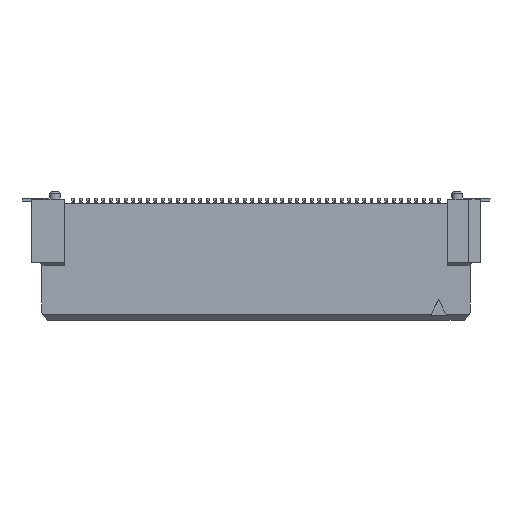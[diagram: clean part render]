
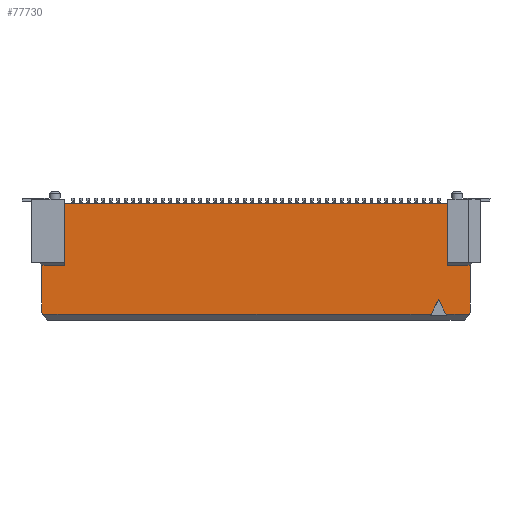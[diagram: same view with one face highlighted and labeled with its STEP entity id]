
A CAD part, front view. The second image highlights one B-rep face of the part: STEP entity #77730.
In plain terms, the highlighted planar face has unit normal (0, -1, 0).
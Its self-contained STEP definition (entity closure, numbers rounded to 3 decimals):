
#4230=CARTESIAN_POINT('',(23.522,1.44,
10.32));
#4240=VERTEX_POINT('',#4230);
#5030=CARTESIAN_POINT('',(23.522,1.44,
6.19));
#5040=VERTEX_POINT('',#5030);
#5070=CARTESIAN_POINT('',(23.522,1.44,
8.755));
#5080=DIRECTION('',(0.,0.,
1.));
#5090=VECTOR('',#5080,1.);
#5100=LINE('',#5070,#5090);
#5110=EDGE_CURVE('',#5040,#4240,#5100,.T.);
#8510=CARTESIAN_POINT('',(25.022,1.44,
6.19));
#8520=VERTEX_POINT('',#8510);
#8550=CARTESIAN_POINT('',(24.372,1.44,
6.19));
#8560=DIRECTION('',(-1.,0.,0.));
#8570=VECTOR('',#8560,1.);
#8580=LINE('',#8550,#8570);
#8590=EDGE_CURVE('',#8520,#5040,#8580,.T.);
#16680=CARTESIAN_POINT('',(25.022,1.44,
3.06));
#16690=VERTEX_POINT('',#16680);
#16720=CARTESIAN_POINT('',(25.022,1.44,
10.39));
#16730=DIRECTION('',(0.,0.,
1.));
#16740=VECTOR('',#16730,1.);
#16750=LINE('',#16720,#16740);
#16760=EDGE_CURVE('',#16690,#8520,#16750,.T.);
#22810=CARTESIAN_POINT('',(24.974,1.44,
2.91));
#22820=VERTEX_POINT('',#22810);
#22850=CARTESIAN_POINT('',(27.371,1.44,
10.39));
#22860=DIRECTION('',(-0.305,0.,
-0.952));
#22870=VECTOR('',#22860,1.);
#22880=LINE('',#22850,#22870);
#22890=EDGE_CURVE('',#16690,#22820,#22880,.T.);
#25270=CARTESIAN_POINT('',(22.912,1.44,
3.91));
#25280=VERTEX_POINT('',#25270);
#25310=CARTESIAN_POINT('',(20.49,1.44,
8.755));
#25320=DIRECTION('',(-0.447,0.,
0.894));
#25330=VECTOR('',#25320,1.);
#25340=LINE('',#25310,#25330);
#25350=CARTESIAN_POINT('',(23.412,1.44,
2.91));
#25360=VERTEX_POINT('',#25350);
#25370=EDGE_CURVE('',#25360,#25280,#25340,.T.);
#76150=CARTESIAN_POINT('',(22.412,1.44,
2.91));
#76160=VERTEX_POINT('',#76150);
#76190=CARTESIAN_POINT('',(25.335,1.44,
8.755));
#76200=DIRECTION('',(-0.447,0.,
-0.894));
#76210=VECTOR('',#76200,1.);
#76220=LINE('',#76190,#76210);
#76230=EDGE_CURVE('',#25280,#76160,#76220,.T.);
#76280=CARTESIAN_POINT('',(2.172,1.44,
2.91));
#76290=DIRECTION('',(0.,1.,
0.));
#76300=DIRECTION('',(0.,0.,
1.));
#76310=AXIS2_PLACEMENT_3D('',#76280,#76290,#76300);
#76320=PLANE('',#76310);
#76330=CARTESIAN_POINT('',(1.152,1.44,
2.91));
#76340=DIRECTION('',(1.,0.,0.));
#76350=VECTOR('',#76340,1.);
#76360=LINE('',#76330,#76350);
#76370=CARTESIAN_POINT('',(-2.348,1.44,
2.91));
#76380=VERTEX_POINT('',#76370);
#76390=CARTESIAN_POINT('',(8.162,1.44,
2.91));
#76400=VERTEX_POINT('',#76390);
#76410=EDGE_CURVE('',#76380,#76400,#76360,.T.);
#76420=ORIENTED_EDGE('',*,*,#76410,.T.);
#76430=CARTESIAN_POINT('',(4.458,1.44,
2.91));
#76440=DIRECTION('',(1.,0.,0.));
#76450=VECTOR('',#76440,1.);
#76460=LINE('',#76430,#76450);
#76470=CARTESIAN_POINT('',(-3.649,1.44,
2.91));
#76480=VERTEX_POINT('',#76470);
#76490=EDGE_CURVE('',#76480,#76380,#76460,.T.);
#76500=ORIENTED_EDGE('',*,*,#76490,.T.);
#76510=CARTESIAN_POINT('',(-6.046,1.44,
10.39));
#76520=DIRECTION('',(0.305,0.,
-0.952));
#76530=VECTOR('',#76520,1.);
#76540=LINE('',#76510,#76530);
#76550=CARTESIAN_POINT('',(-3.698,1.44,
3.06));
#76560=VERTEX_POINT('',#76550);
#76570=EDGE_CURVE('',#76560,#76480,#76540,.T.);
#76580=ORIENTED_EDGE('',*,*,#76570,.T.);
#76590=CARTESIAN_POINT('',(-3.698,1.44,
10.39));
#76600=DIRECTION('',(0.,0.,
1.));
#76610=VECTOR('',#76600,1.);
#76620=LINE('',#76590,#76610);
#76630=CARTESIAN_POINT('',(-3.698,1.44,
6.19));
#76640=VERTEX_POINT('',#76630);
#76650=EDGE_CURVE('',#76560,#76640,#76620,.T.);
#76660=ORIENTED_EDGE('',*,*,#76650,.F.);
#76670=CARTESIAN_POINT('',(-3.048,1.44,
6.19));
#76680=DIRECTION('',(1.,0.,0.));
#76690=VECTOR('',#76680,1.);
#76700=LINE('',#76670,#76690);
#76710=CARTESIAN_POINT('',(-2.198,1.44,
6.19));
#76720=VERTEX_POINT('',#76710);
#76730=EDGE_CURVE('',#76640,#76720,#76700,.T.);
#76740=ORIENTED_EDGE('',*,*,#76730,.F.);
#76750=CARTESIAN_POINT('',(-2.198,1.44,
8.755));
#76760=DIRECTION('',(0.,0.,
1.));
#76770=VECTOR('',#76760,1.);
#76780=LINE('',#76750,#76770);
#76790=CARTESIAN_POINT('',(-2.198,1.44,
10.32));
#76800=VERTEX_POINT('',#76790);
#76810=EDGE_CURVE('',#76720,#76800,#76780,.T.);
#76820=ORIENTED_EDGE('',*,*,#76810,.F.);
#76830=CARTESIAN_POINT('',(-2.348,1.44,
10.32));
#76840=DIRECTION('',(1.,0.,0.));
#76850=VECTOR('',#76840,1.);
#76860=LINE('',#76830,#76850);
#76870=CARTESIAN_POINT('',(-1.838,1.44,
10.32));
#76880=VERTEX_POINT('',#76870);
#76890=EDGE_CURVE('',#76800,#76880,#76860,.T.);
#76900=ORIENTED_EDGE('',*,*,#76890,.F.);
#76910=CARTESIAN_POINT('',(-20.088,1.44,
10.32));
#76920=DIRECTION('',(1.,0.,0.));
#76930=VECTOR('',#76920,1.);
#76940=LINE('',#76910,#76930);
#76950=CARTESIAN_POINT('',(1.662,1.44,
10.32));
#76960=VERTEX_POINT('',#76950);
#76970=EDGE_CURVE('',#76880,#76960,#76940,.T.);
#76980=ORIENTED_EDGE('',*,*,#76970,.F.);
#76990=CARTESIAN_POINT('',(-14.,1.44,
10.32));
#77000=DIRECTION('',(1.,0.,0.));
#77010=VECTOR('',#77000,1.);
#77020=LINE('',#76990,#77010);
#77030=CARTESIAN_POINT('',(8.162,1.44,
10.32));
#77040=VERTEX_POINT('',#77030);
#77050=EDGE_CURVE('',#76960,#77040,#77020,.T.);
#77060=ORIENTED_EDGE('',*,*,#77050,.F.);
#77070=CARTESIAN_POINT('',(-39.,1.44,
10.32));
#77080=DIRECTION('',(1.,0.,0.));
#77090=VECTOR('',#77080,1.);
#77100=LINE('',#77070,#77090);
#77110=CARTESIAN_POINT('',(13.162,1.44,
10.32));
#77120=VERTEX_POINT('',#77110);
#77130=EDGE_CURVE('',#77040,#77120,#77100,.T.);
#77140=ORIENTED_EDGE('',*,*,#77130,.F.);
#77150=CARTESIAN_POINT('',(-9.,1.44,
10.32));
#77160=DIRECTION('',(1.,0.,0.));
#77170=VECTOR('',#77160,1.);
#77180=LINE('',#77150,#77170);
#77190=CARTESIAN_POINT('',(19.162,1.44,
10.32));
#77200=VERTEX_POINT('',#77190);
#77210=EDGE_CURVE('',#77120,#77200,#77180,.T.);
#77220=ORIENTED_EDGE('',*,*,#77210,.F.);
#77230=CARTESIAN_POINT('',(-2.588,1.44,
10.32));
#77240=DIRECTION('',(1.,0.,0.));
#77250=VECTOR('',#77240,1.);
#77260=LINE('',#77230,#77250);
#77270=CARTESIAN_POINT('',(23.162,1.44,
10.32));
#77280=VERTEX_POINT('',#77270);
#77290=EDGE_CURVE('',#77200,#77280,#77260,.T.);
#77300=ORIENTED_EDGE('',*,*,#77290,.F.);
#77310=CARTESIAN_POINT('',(23.672,1.44,
10.32));
#77320=DIRECTION('',(-1.,0.,0.));
#77330=VECTOR('',#77320,1.);
#77340=LINE('',#77310,#77330);
#77350=EDGE_CURVE('',#4240,#77280,#77340,.T.);
#77360=ORIENTED_EDGE('',*,*,#77350,.T.);
#77370=ORIENTED_EDGE('',*,*,#5110,.T.);
#77380=ORIENTED_EDGE('',*,*,#8590,.T.);
#77390=ORIENTED_EDGE('',*,*,#16760,.T.);
#77400=ORIENTED_EDGE('',*,*,#22890,.F.);
#77410=CARTESIAN_POINT('',(16.867,1.44,
2.91));
#77420=DIRECTION('',(-1.,0.,0.));
#77430=VECTOR('',#77420,1.);
#77440=LINE('',#77410,#77430);
#77450=CARTESIAN_POINT('',(23.672,1.44,
2.91));
#77460=VERTEX_POINT('',#77450);
#77470=EDGE_CURVE('',#22820,#77460,#77440,.T.);
#77480=ORIENTED_EDGE('',*,*,#77470,.F.);
#77490=CARTESIAN_POINT('',(-2.348,1.44,
2.91));
#77500=DIRECTION('',(1.,0.,0.));
#77510=VECTOR('',#77500,1.);
#77520=LINE('',#77490,#77510);
#77530=EDGE_CURVE('',#25360,#77460,#77520,.T.);
#77540=ORIENTED_EDGE('',*,*,#77530,.T.);
#77550=ORIENTED_EDGE('',*,*,#25370,.F.);
#77560=ORIENTED_EDGE('',*,*,#76230,.F.);
#77570=CARTESIAN_POINT('',(6.152,1.44,
2.91));
#77580=DIRECTION('',(1.,0.,0.));
#77590=VECTOR('',#77580,1.);
#77600=LINE('',#77570,#77590);
#77610=CARTESIAN_POINT('',(13.162,1.44,
2.91));
#77620=VERTEX_POINT('',#77610);
#77630=EDGE_CURVE('',#77620,#76160,#77600,.T.);
#77640=ORIENTED_EDGE('',*,*,#77630,.T.);
#77650=CARTESIAN_POINT('',(-23.848,1.44,
2.91));
#77660=DIRECTION('',(1.,0.,0.));
#77670=VECTOR('',#77660,1.);
#77680=LINE('',#77650,#77670);
#77690=EDGE_CURVE('',#76400,#77620,#77680,.T.);
#77700=ORIENTED_EDGE('',*,*,#77690,.T.);
#77710=EDGE_LOOP('',(#77700,#77640,#77560,#77550,#77540,#77480,#77400,
#77390,#77380,#77370,#77360,#77300,#77220,#77140,#77060,#76980,#76900,
#76820,#76740,#76660,#76580,#76500,#76420));
#77720=FACE_OUTER_BOUND('',#77710,.T.);
#77730=ADVANCED_FACE('',(#77720),#76320,.F.);
